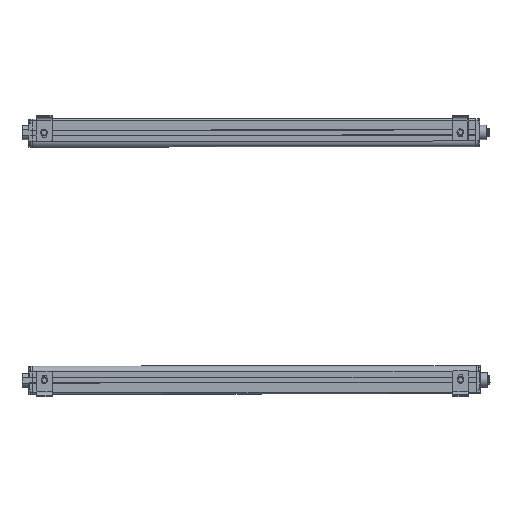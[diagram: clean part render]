
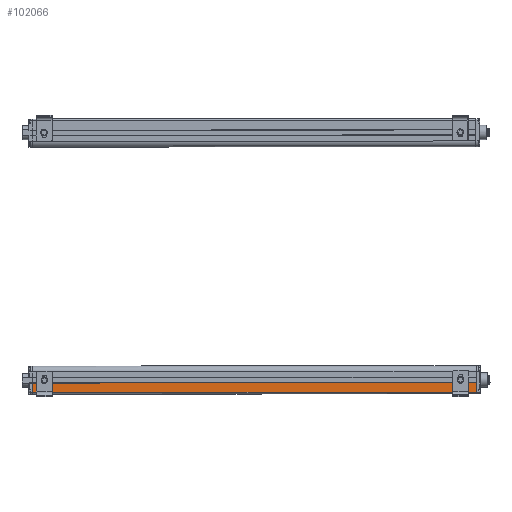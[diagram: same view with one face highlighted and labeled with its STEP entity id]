
A CAD part, left-side view. The second image highlights one B-rep face of the part: STEP entity #102066.
In plain terms, the highlighted planar face has unit normal (-1, 0, 0).
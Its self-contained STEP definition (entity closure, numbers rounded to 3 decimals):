
#2299 = ORIENTED_EDGE ( 'NONE', *, *, #163533, .F. ) ;
#14601 = EDGE_CURVE ( 'NONE', #147523, #38913, #105862, .T. ) ;
#19195 = CARTESIAN_POINT ( 'NONE',  ( -18.91, 0., 4.825 ) ) ;
#28085 = ORIENTED_EDGE ( 'NONE', *, *, #65310, .T. ) ;
#33565 = AXIS2_PLACEMENT_3D ( 'NONE', #86965, #103251, #172145 ) ;
#34341 = EDGE_CURVE ( 'NONE', #83748, #87609, #134311, .T. ) ;
#38913 = VERTEX_POINT ( 'NONE', #138597 ) ;
#41076 = CARTESIAN_POINT ( 'NONE',  ( -18.91, 805., 4.825 ) ) ;
#53536 = VECTOR ( 'NONE', #55930, 1000. ) ;
#55930 = DIRECTION ( 'NONE',  ( 0., 0., 1. ) ) ;
#57310 = DIRECTION ( 'NONE',  ( 0., 0., 1. ) ) ;
#58142 = CARTESIAN_POINT ( 'NONE',  ( -18.91, 805., 22.075 ) ) ;
#62102 = CARTESIAN_POINT ( 'NONE',  ( -18.91, 0., 4.825 ) ) ;
#65310 = EDGE_CURVE ( 'NONE', #83748, #147523, #176670, .T. ) ;
#68970 = VECTOR ( 'NONE', #104759, 1000. ) ;
#83748 = VERTEX_POINT ( 'NONE', #41076 ) ;
#86965 = CARTESIAN_POINT ( 'NONE',  ( -18.91, 0., 4.825 ) ) ;
#87609 = VERTEX_POINT ( 'NONE', #58142 ) ;
#98583 = CARTESIAN_POINT ( 'NONE',  ( -18.91, 805., 0. ) ) ;
#102066 = ADVANCED_FACE ( 'NONE', ( #170405 ), #132049, .T. ) ;
#103251 = DIRECTION ( 'NONE',  ( -1., 0., 0. ) ) ;
#104759 = DIRECTION ( 'NONE',  ( 0., -1., 0. ) ) ;
#105862 = LINE ( 'NONE', #114990, #168571 ) ;
#110310 = DIRECTION ( 'NONE',  ( 0., -1., 0. ) ) ;
#114990 = CARTESIAN_POINT ( 'NONE',  ( -18.91, 0., 4.825 ) ) ;
#121116 = EDGE_LOOP ( 'NONE', ( #28085, #139311, #2299, #125041 ) ) ;
#125041 = ORIENTED_EDGE ( 'NONE', *, *, #34341, .F. ) ;
#132049 = PLANE ( 'NONE',  #33565 ) ;
#134311 = LINE ( 'NONE', #98583, #53536 ) ;
#138597 = CARTESIAN_POINT ( 'NONE',  ( -18.91, 0., 22.075 ) ) ;
#139311 = ORIENTED_EDGE ( 'NONE', *, *, #14601, .T. ) ;
#147523 = VERTEX_POINT ( 'NONE', #19195 ) ;
#156639 = CARTESIAN_POINT ( 'NONE',  ( -18.91, 0., 22.075 ) ) ;
#163533 = EDGE_CURVE ( 'NONE', #87609, #38913, #170858, .T. ) ;
#168571 = VECTOR ( 'NONE', #57310, 1000. ) ;
#170405 = FACE_OUTER_BOUND ( 'NONE', #121116, .T. ) ;
#170858 = LINE ( 'NONE', #156639, #177684 ) ;
#172145 = DIRECTION ( 'NONE',  ( 0., 0., 1. ) ) ;
#176670 = LINE ( 'NONE', #62102, #68970 ) ;
#177684 = VECTOR ( 'NONE', #110310, 1000. ) ;
